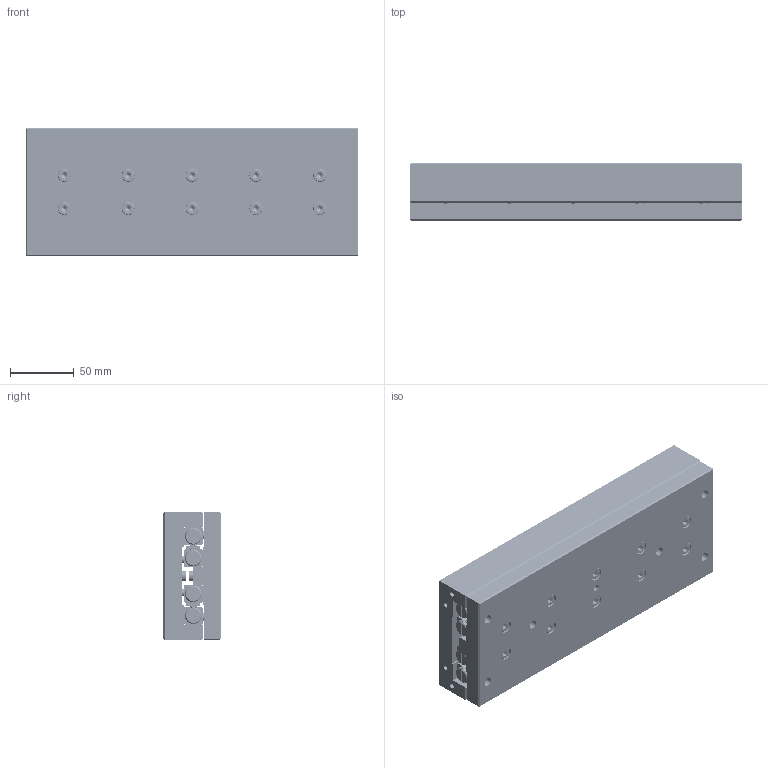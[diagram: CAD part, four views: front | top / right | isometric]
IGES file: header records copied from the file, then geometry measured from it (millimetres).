
Start section: SolidWorks IGES file using analytic representation for surfaces
Global section: file name: C:\Documents and Settings\IanO.IANOHOME\My Documents\Wix and Auto CAD Work\CAD Models\Parametric Models\Auto Models\L1020\L1020_IGES\L1020.100-260.igs; native system: SolidWorks 2009; preprocessor: SolidWorks 2009; author: IanO; date: 110922.162932; units: millimetre
Bounding box: 260 x 45 x 100 mm (x, y, z)
Surface area: 261138.3 mm2 (no closed solid volume)
Topology: 0 solids, 0 shells, 1642 faces, 23788 edges, 23738 vertices
Faces by surface type: bspline 1032, revolution 610
